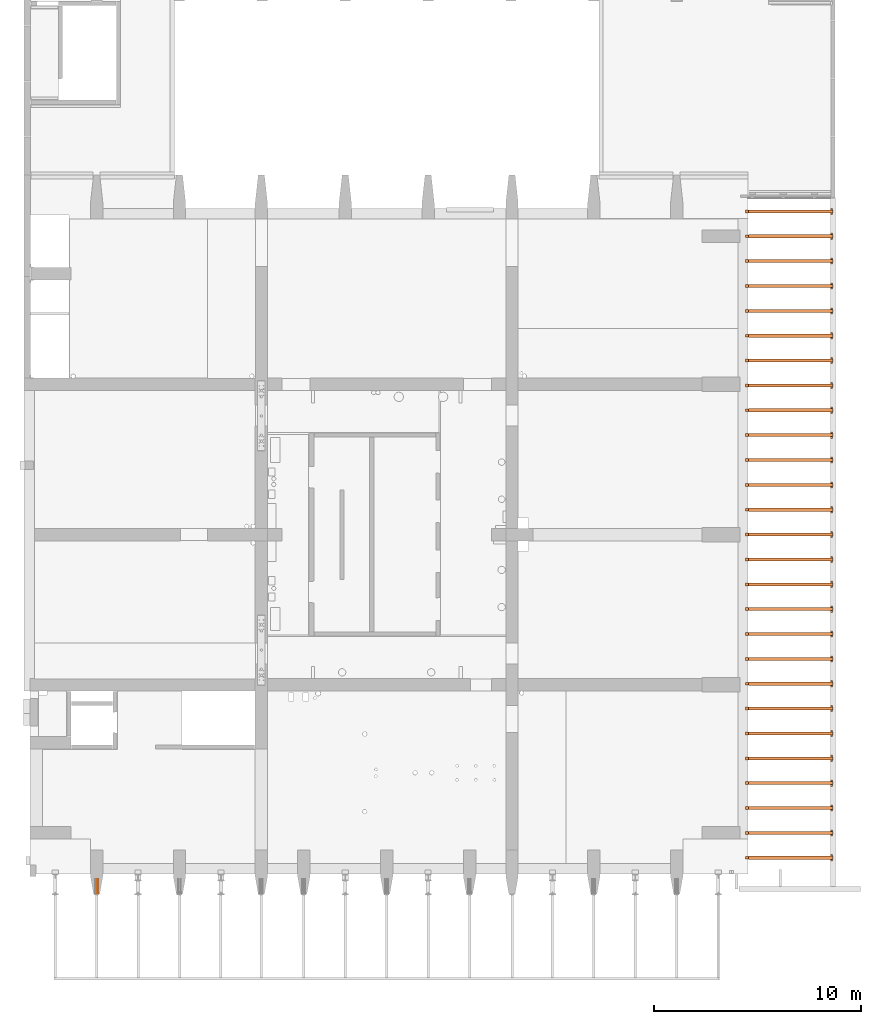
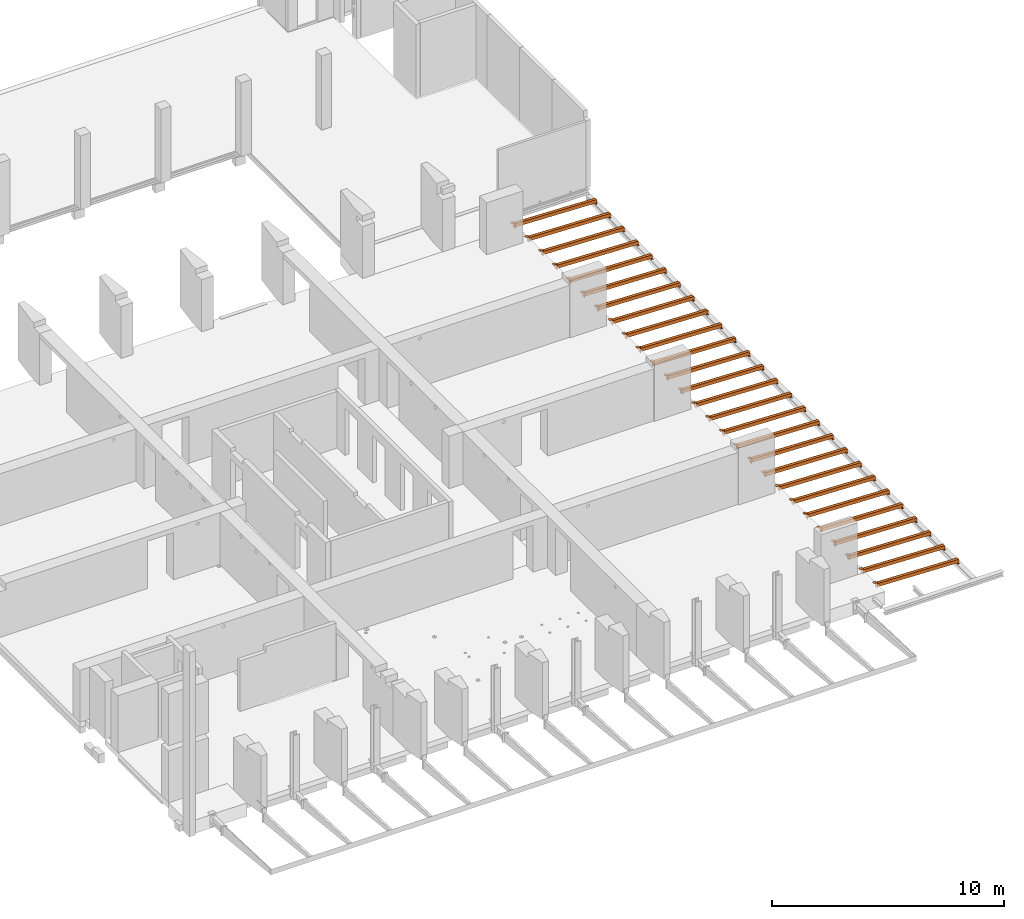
# One storey, part 25 of 27: 28 proxies.
"""IFC2X3 building model written with IfcOpenShell, lengths in millimetres."""

import ifcopenshell
import ifcopenshell.guid

model = None  # the IFC model being written
_history = None  # IfcOwnerHistory: only IFC2X3 demands one
_inside = {}  # id of a spatial element -> (the spatial element, [elements in it])
_under = {}  # id of a project, library or spatial element -> (it, [spatial elements below it])
_declared = {}  # id of a project -> (the project, [libraries it declares])
_typed = {}  # id of a type object -> (the type object, [elements of that type])
_made_of = {}  # id of a material, layer set ... -> (it, [elements and type objects made of it])


def new_model(schema):
    """Start an empty IFC model of exactly this schema.

    Asked for "IFC4X3", IfcOpenShell would pick the latest addendum, in which some entities
    have other attributes; the version numbers below select the first issue.
    IFC2X3 requires an IfcOwnerHistory on every rooted entity: one is made here for all.
    """
    global model, _history
    if schema == "IFC4X3":
        model = ifcopenshell.file(schema_version=(4, 3, 0, 0))
    else:
        model = ifcopenshell.file(schema=schema)
    _inside.clear()
    _under.clear()
    _declared.clear()
    _typed.clear()
    _made_of.clear()
    _history = None
    if model.schema == "IFC2X3":
        org = make("IfcOrganization", Name="unknown")
        user = make(
            "IfcPersonAndOrganization",
            ThePerson=make("IfcPerson", FamilyName="unknown"),
            TheOrganization=org,
        )
        app = make(
            "IfcApplication",
            ApplicationDeveloper=org,
            Version="unknown",
            ApplicationFullName="unknown",
            ApplicationIdentifier="unknown",
        )
        _history = make(
            "IfcOwnerHistory",
            OwningUser=user,
            OwningApplication=app,
            ChangeAction="ADDED",
            CreationDate=0,
        )
    return model


def make(cls, **values):
    """One entity of the class cls with the attributes given. An attribute that is None is left unset."""
    return model.create_entity(
        cls, **{name: value for name, value in values.items() if value is not None}
    )


def entity(cls, *values):
    """Any entity or typed value of the class cls, its attributes in the order of the schema. None: left unset."""
    e = model.create_entity(cls)
    for i, value in enumerate(values):
        if value is not None:
            e[i] = value
    return e


def rooted(cls, **values):
    """An entity with a GlobalId (a new one), such as an element, a storey or a relation."""
    return make(cls, GlobalId=ifcopenshell.guid.new(), OwnerHistory=_history, **values)


def si_unit(unit_type, name, prefix=None):
    """IfcSIUnit, for example si_unit("LENGTHUNIT", "METRE", prefix="MILLI")."""
    return make("IfcSIUnit", UnitType=unit_type, Prefix=prefix, Name=name)


def converted_unit(unit_type, name, factor, base, dimensions=None, offset=None):
    """IfcConversionBasedUnit, such as the inch: factor (a typed value) times the base unit."""
    return make(
        "IfcConversionBasedUnit"
        if offset is None
        else "IfcConversionBasedUnitWithOffset",
        ConversionOffset=offset,
        Dimensions=None
        if dimensions is None
        else entity("IfcDimensionalExponents", *dimensions),
        UnitType=unit_type,
        Name=name,
        ConversionFactor=make(
            "IfcMeasureWithUnit", ValueComponent=factor, UnitComponent=base
        ),
    )


def derived_unit(unit_type, elements):
    """IfcDerivedUnit: a product of units, each with its exponent."""
    return make(
        "IfcDerivedUnit",
        Elements=[
            make("IfcDerivedUnitElement", Unit=unit, Exponent=power)
            for unit, power in elements
        ],
        UnitType=unit_type,
    )


def assignment(units):
    """IfcUnitAssignment: the units of a project."""
    return None if units is None else make("IfcUnitAssignment", Units=units)


def point(xyz):
    """IfcCartesianPoint."""
    return None if xyz is None else make("IfcCartesianPoint", Coordinates=xyz)


def direction(xyz):
    """IfcDirection."""
    return None if xyz is None else make("IfcDirection", DirectionRatios=xyz)


def frame(location, z_axis=None, x_axis=None):
    """IfcAxis2Placement3D, a coordinate frame: its origin and axes. An axis left out is left unset."""
    return make(
        "IfcAxis2Placement3D",
        Location=point(location),
        Axis=direction(z_axis),
        RefDirection=direction(x_axis),
    )


def frame_2d(location, x_axis=None):
    """IfcAxis2Placement2D, a coordinate frame in the plane: its origin and x axis."""
    return make(
        "IfcAxis2Placement2D", Location=point(location), RefDirection=direction(x_axis)
    )


def origin():
    """The frame at (0, 0, 0) with its axes left unset."""
    return frame((0.0, 0.0, 0.0))


def origin_2d_with_axis():
    """The frame at (0, 0) in the plane with the x axis (1, 0) written out."""
    return frame_2d((0.0, 0.0), x_axis=(1.0, 0.0))


def place(relative_to, where):
    """IfcLocalPlacement: puts the frame where relative to a parent placement (None: the world)."""
    return make(
        "IfcLocalPlacement", PlacementRelTo=relative_to, RelativePlacement=where
    )


def context(
    kind, dimensions, precision=None, world=None, true_north=None, identifier=None
):
    """IfcGeometricRepresentationContext, for example the 3D "Model" context."""
    return make(
        "IfcGeometricRepresentationContext",
        ContextIdentifier=identifier,
        ContextType=kind,
        CoordinateSpaceDimension=dimensions,
        Precision=precision,
        WorldCoordinateSystem=world,
        TrueNorth=true_north,
    )


def subcontext(parent, identifier, kind, view, scale=None):
    """IfcGeometricRepresentationSubContext, for example "Body" below "Model"."""
    return make(
        "IfcGeometricRepresentationSubContext",
        ContextIdentifier=identifier,
        ContextType=kind,
        ParentContext=parent,
        TargetScale=scale,
        TargetView=view,
    )


def project(units=None, contexts=None):
    """IfcProject with its units and contexts."""
    return rooted(
        "IfcProject",
        Name="project",
        RepresentationContexts=contexts,
        UnitsInContext=assignment(units),
    )


def spatial(cls, under=None, at=None, **own):
    """A site, building, storey or space (cls), placed at a placement, below another one or the project."""
    s = rooted(cls, ObjectPlacement=at, **own)
    if under is not None:
        _under.setdefault(under.id(), (under, []))[1].append(s)
    return s


def polyline(points):
    """IfcPolyline through the points."""
    return make("IfcPolyline", Points=[point(p) for p in points])


def circle_curve(where, radius):
    """IfcCircle in the frame where."""
    return make("IfcCircle", Position=where, Radius=radius)


def parameter(value):
    """IfcParameterValue: where a trimmed curve begins or ends, as a parameter of its basis curve."""
    return model.create_entity("IfcParameterValue", value)


def trimmed(basis, trim1, trim2, sense, master):
    """IfcTrimmedCurve: the piece of a basis curve between two trims."""
    return make(
        "IfcTrimmedCurve",
        BasisCurve=basis,
        Trim1=trim1,
        Trim2=trim2,
        SenseAgreement=sense,
        MasterRepresentation=master,
    )


def segment(curve, same_sense, transition):
    """IfcCompositeCurveSegment."""
    return make(
        "IfcCompositeCurveSegment",
        Transition=transition,
        SameSense=same_sense,
        ParentCurve=curve,
    )


def composite_curve(segments, self_intersect=None):
    """IfcCompositeCurve: segments joined end to end."""
    return make("IfcCompositeCurve", Segments=segments, SelfIntersect=self_intersect)


def profile(cls, at=None, kind="AREA", **sizes):
    """A parametric profile (cls). Its sizes go by their IFC names, for example OverallWidth=200.0."""
    return make(cls, ProfileType=kind, Position=at, **sizes)


def rectangle(**sizes):
    """IfcRectangleProfileDef."""
    return profile("IfcRectangleProfileDef", **sizes)


def circle(**sizes):
    """IfcCircleProfileDef."""
    return profile("IfcCircleProfileDef", **sizes)


def outline(outer, holes=None, kind="AREA"):
    """IfcArbitraryClosedProfileDef: a profile drawn as a closed curve; with holes, ...WithVoids."""
    if holes is None:
        return make("IfcArbitraryClosedProfileDef", ProfileType=kind, OuterCurve=outer)
    return make(
        "IfcArbitraryProfileDefWithVoids",
        ProfileType=kind,
        OuterCurve=outer,
        InnerCurves=holes,
    )


def extrude(swept, where, along, depth):
    """IfcExtrudedAreaSolid: the profile swept, set in the frame where, extruded along a direction by depth."""
    return make(
        "IfcExtrudedAreaSolid",
        SweptArea=swept,
        Position=where,
        ExtrudedDirection=direction(along),
        Depth=depth,
    )


def faces_of(points, faces, orient=None, outer=None):
    """IfcFace entities. A face is a list of loops; a loop is a list of indices into points, from 0.

    orient and outer hold one flag for each loop. By default every Orientation is true, the
    first loop of a face is its IfcFaceOuterBound and the others are IfcFaceBound.
    """
    made = []
    for i, loops in enumerate(faces):
        bounds = []
        for j, loop in enumerate(loops):
            is_outer = j == 0 if outer is None else outer[i][j]
            bounds.append(
                make(
                    "IfcFaceOuterBound" if is_outer else "IfcFaceBound",
                    Bound=make("IfcPolyLoop", Polygon=[points[k] for k in loop]),
                    Orientation=True if orient is None else orient[i][j],
                )
            )
        made.append(make("IfcFace", Bounds=bounds))
    return made


def faceted_brep(points, faces, orient=None, outer=None, voids=None):
    """IfcFacetedBrep: a solid bounded by flat faces; with voids (closed shells), ...WithVoids."""
    shared = [point(p) for p in points]
    hull = make("IfcClosedShell", CfsFaces=faces_of(shared, faces, orient, outer))
    if voids is None:
        return make("IfcFacetedBrep", Outer=hull)
    return make(
        "IfcFacetedBrepWithVoids",
        Outer=hull,
        Voids=[
            make(cls, CfsFaces=faces_of(shared, fs, o, b)) for cls, fs, o, b in voids
        ],
    )


def shape(context_of_items, identifier, shape_type, items):
    """IfcShapeRepresentation: the items that make up one representation, for example the "Body"."""
    return make(
        "IfcShapeRepresentation",
        ContextOfItems=context_of_items,
        RepresentationIdentifier=identifier,
        RepresentationType=shape_type,
        Items=items,
    )


def source(mapping_origin, context_of_items, identifier, shape_type, items):
    """IfcRepresentationMap: a shape defined once, which mapped items show again and again."""
    return make(
        "IfcRepresentationMap",
        MappingOrigin=mapping_origin,
        MappedRepresentation=shape(context_of_items, identifier, shape_type, items),
    )


def transform(
    local_origin,
    x_axis=None,
    y_axis=None,
    z_axis=None,
    scale=None,
    scale2=None,
    scale3=None,
    uniform=True,
):
    """IfcCartesianTransformationOperator3D, or its non-uniform kind. x_axis, y_axis, z_axis: its Axis1, 2, 3."""
    if uniform:
        return make(
            "IfcCartesianTransformationOperator3D",
            Axis1=direction(x_axis),
            Axis2=direction(y_axis),
            LocalOrigin=point(local_origin),
            Scale=scale,
            Axis3=direction(z_axis),
        )
    return make(
        "IfcCartesianTransformationOperator3DnonUniform",
        Axis1=direction(x_axis),
        Axis2=direction(y_axis),
        LocalOrigin=point(local_origin),
        Scale=scale,
        Axis3=direction(z_axis),
        Scale2=scale2,
        Scale3=scale3,
    )


def mapped(mapping_source, mapping_target):
    """IfcMappedItem: shows the shape of a source again, moved by a transform."""
    return make(
        "IfcMappedItem", MappingSource=mapping_source, MappingTarget=mapping_target
    )


def material(Name=None, Category=None):
    """IfcMaterial."""
    return make("IfcMaterial", Name=Name, Category=Category)


def made_of(thing, what):
    """Note that an element or type object is made of a material, layer set ...; save() writes the relation."""
    if what is not None:
        _made_of.setdefault(what.id(), (what, []))[1].append(thing)
    return thing


def type_object(cls, material=None, **own):
    """A type object (cls), such as IfcWallType, which elements share."""
    return made_of(rooted(cls, **own), material)


def type_shapes(of_type, sources):
    """Give a type object the sources (RepresentationMaps) that its elements show as mapped items."""
    of_type.RepresentationMaps = sources


def element(
    cls,
    number,
    at=None,
    inside=None,
    cuts=None,
    type_object=None,
    material=None,
    context=None,
    identifier="Body",
    shape_type=None,
    held_by="IfcProductDefinitionShape",
    body=None,
    shapes=None,
    **own,
):
    """One element of the class cls, such as IfcWall. Its Tag is "e" and its number.

    at: its placement. inside: the storey or other place that contains it. cuts: it is an
    opening in that element (IfcRelVoidsElement). A single representation is given by context,
    identifier, shape_type and body (its items); several are given by shapes. held_by: the class
    of the entity that holds the representations. save() writes the other relations.
    """
    e = rooted(cls, Tag="e%d" % number, ObjectPlacement=at, **own)
    if body is not None:
        shapes = [shape(context, identifier, shape_type, body)]
    if shapes is not None:
        e.Representation = make(held_by, Representations=shapes)
    if inside is not None:
        _inside.setdefault(inside.id(), (inside, []))[1].append(e)
    if cuts is not None:
        rooted(
            "IfcRelVoidsElement", RelatingBuildingElement=cuts, RelatedOpeningElement=e
        )
    if type_object is not None:
        _typed.setdefault(type_object.id(), (type_object, []))[1].append(e)
    return made_of(e, material)


def aggregate(whole, parts):
    """IfcRelAggregates: a whole, such as a stair, and the parts it consists of."""
    return rooted("IfcRelAggregates", RelatingObject=whole, RelatedObjects=parts)


def save(model, path):
    """Write the relations noted so far, then the file.

    IfcRelAggregates (storeys below a building ...), IfcRelContainedInSpatialStructure (elements
    in a storey), IfcRelDefinesByType, IfcRelAssociatesMaterial and IfcRelDeclares: one each for
    every whole, place, type object, material and project.
    """
    for whole, parts in _under.values():
        aggregate(whole, parts)
    for where, things in _inside.values():
        rooted(
            "IfcRelContainedInSpatialStructure",
            RelatedElements=things,
            RelatingStructure=where,
        )
    for kind, things in _typed.values():
        rooted("IfcRelDefinesByType", RelatedObjects=things, RelatingType=kind)
    for what, things in _made_of.values():
        rooted("IfcRelAssociatesMaterial", RelatedObjects=things, RelatingMaterial=what)
    for by, libraries in _declared.values():
        rooted("IfcRelDeclares", RelatingContext=by, RelatedDefinitions=libraries)
    model.write(path)


model = new_model("IFC2X3")

# Units and contexts
model_context = context("Model", 3, precision=0.01, world=origin(), true_north=direction((6.12303176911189e-17, 1.0)))
body_context = subcontext(model_context, "Body", "Model", "MODEL_VIEW")
ifc_project = project(units=[si_unit("LENGTHUNIT", "METRE", prefix="MILLI"), si_unit("AREAUNIT", "SQUARE_METRE"), si_unit("VOLUMEUNIT", "CUBIC_METRE"), converted_unit("PLANEANGLEUNIT", "DEGREE", entity("IfcRatioMeasure", 0.0174532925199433), si_unit("PLANEANGLEUNIT", "RADIAN"), dimensions=[0, 0, 0, 0, 0, 0, 0]), si_unit("MASSUNIT", "GRAM", prefix="KILO"), derived_unit("MASSDENSITYUNIT", [(si_unit("MASSUNIT", "GRAM", prefix="KILO"), 1), (si_unit("LENGTHUNIT", "METRE"), -3)]), si_unit("TIMEUNIT", "SECOND"), si_unit("FREQUENCYUNIT", "HERTZ"), si_unit("THERMODYNAMICTEMPERATUREUNIT", "DEGREE_CELSIUS"), derived_unit("THERMALTRANSMITTANCEUNIT", [(si_unit("MASSUNIT", "GRAM", prefix="KILO"), 1), (si_unit("THERMODYNAMICTEMPERATUREUNIT", "KELVIN"), -1), (si_unit("TIMEUNIT", "SECOND"), -3)]), derived_unit("VOLUMETRICFLOWRATEUNIT", [(si_unit("LENGTHUNIT", "METRE"), 3), (si_unit("TIMEUNIT", "SECOND"), -1)]), si_unit("ELECTRICCURRENTUNIT", "AMPERE"), si_unit("ELECTRICVOLTAGEUNIT", "VOLT"), si_unit("POWERUNIT", "WATT"), si_unit("FORCEUNIT", "NEWTON", prefix="KILO"), si_unit("ILLUMINANCEUNIT", "LUX"), si_unit("LUMINOUSFLUXUNIT", "LUMEN"), si_unit("LUMINOUSINTENSITYUNIT", "CANDELA"), derived_unit("USERDEFINED", [(si_unit("MASSUNIT", "GRAM", prefix="KILO"), -1), (si_unit("LENGTHUNIT", "METRE"), -2), (si_unit("TIMEUNIT", "SECOND"), 3), (si_unit("LUMINOUSFLUXUNIT", "LUMEN"), 1)]), derived_unit("LINEARVELOCITYUNIT", [(si_unit("LENGTHUNIT", "METRE"), 1), (si_unit("TIMEUNIT", "SECOND"), -1)]), si_unit("PRESSUREUNIT", "PASCAL"), derived_unit("USERDEFINED", [(si_unit("LENGTHUNIT", "METRE"), -2), (si_unit("MASSUNIT", "GRAM", prefix="KILO"), 1), (si_unit("TIMEUNIT", "SECOND"), -2)])], contexts=[model_context])

# Site, building, storey
site_placement = place(None, origin())
site = spatial("IfcSite", under=ifc_project, at=site_placement, Name="Default", CompositionType="ELEMENT")
building_placement = place(site_placement, origin())
building = spatial("IfcBuilding", under=site, at=building_placement, Name="niet gebruiken", CompositionType="ELEMENT")
storey_placement = place(building_placement, frame((0.0, 0.0, 6000.0)))
storey = spatial("IfcBuildingStorey", under=building, at=storey_placement, Name="01 eerste verdieping", CompositionType="ELEMENT", Elevation=6000.0)

# Proxies
building_element_proxy_type_1 = type_object("IfcBuildingElementProxyType", Name="Ø20/M24x705", PredefinedType="NOTDEFINED")
shared_shape_1 = source(origin(), body_context, "Body", "SolidModel", [
    extrude(circle(Radius=10.0, at=frame_2d((0.0, -1.61554457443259e-14), x_axis=(1.0, 0.0))), frame((34.9769027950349, 0.0, -705.0)), (0.0, 0.0, 1.0), 615.0),
    extrude(circle(Radius=10.0, at=frame_2d((0.0, -1.61554457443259e-14), x_axis=(1.0, 0.0))), frame((34.9769027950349, 0.0, -705.0)), (0.0, 0.0, 1.0), 615.0),
    faceted_brep([(29.3200485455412, 13.6568542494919, 0.0), (32.1484756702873, 14.8284271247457, 0.0), (34.9769027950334, 16.0, 0.0), (34.9769027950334, 16.0, -38.0), (32.1484756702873, 14.8284271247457, -38.0), (29.3200485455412, 13.6568542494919, -38.0), (26.4916214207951, 12.4852813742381, -38.0), (23.663194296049, 11.3137084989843, -38.0), (23.663194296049, 11.3137084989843, 0.0), (26.4916214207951, 12.4852813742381, 0.0), (49.805329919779, 2.82842712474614, 0.0), (50.9769027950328, 0.0, 0.0), (50.9769027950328, 0.0, -38.0), (50.0199937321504, 2.31018283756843, -38.0), (49.7680552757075, 2.91841607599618, -38.0), (48.6337570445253, 5.65685424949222, -38.0), (48.5592077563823, 5.83683215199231, -38.0), (47.4621841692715, 8.48528137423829, -38.0), (46.2906112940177, 11.3137084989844, -38.0), (46.2906112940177, 11.3137084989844, 0.0), (47.4621841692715, 8.48528137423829, 0.0), (48.6337570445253, 5.65685424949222, 0.0), (21.3200485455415, 5.65685424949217, 0.0), (22.4916214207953, 8.48528137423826, 0.0), (22.4916214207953, 8.48528137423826, -38.0), (22.2769576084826, 7.96703708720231, -38.0), (21.3200485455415, 5.65685424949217, -38.0), (20.8907209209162, 4.62036567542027, -38.0), (20.1484756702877, 2.82842712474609, -38.0), (18.976902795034, 0.0, -38.0), (18.976902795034, 0.0, 0.0), (20.1484756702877, 2.82842712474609, 0.0), (40.6337570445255, 13.6568542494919, 0.0), (43.4621841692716, 12.4852813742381, 0.0), (43.4621841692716, 12.4852813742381, -38.0), (40.6337570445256, 13.6568542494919, -38.0), (37.8053299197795, 14.8284271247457, -38.0), (37.8053299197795, 14.8284271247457, 0.0), (49.063084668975, -4.62036567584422, 0.0), (47.6768479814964, -7.96703708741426, 0.0), (46.2906112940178, -11.3137084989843, 0.0), (46.2906112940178, -11.3137084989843, -38.0), (47.4621841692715, -8.48528137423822, -38.0), (48.6337570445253, -5.65685424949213, -38.0), (49.8053299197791, -2.82842712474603, -38.0), (29.3200485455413, -13.6568542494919, 0.0), (26.4916214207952, -12.4852813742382, 0.0), (23.6631942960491, -11.3137084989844, 0.0), (23.6631942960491, -11.3137084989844, -38.0), (26.4916214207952, -12.4852813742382, -38.0), (29.3200485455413, -13.6568542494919, -38.0), (32.1484756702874, -14.8284271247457, -38.0), (34.9769027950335, -16.0, -38.0), (34.9769027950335, -16.0, 0.0), (32.1484756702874, -14.8284271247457, 0.0), (37.8053299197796, -14.8284271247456, -38.0), (40.6337570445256, -13.6568542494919, -38.0), (43.4621841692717, -12.4852813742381, -38.0), (43.4621841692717, -12.4852813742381, 0.0), (40.6337570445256, -13.6568542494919, 0.0), (37.8053299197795, -14.8284271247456, 0.0), (22.4916214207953, -8.48528137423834, 0.0), (21.3200485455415, -5.65685424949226, 0.0), (20.1484756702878, -2.82842712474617, 0.0), (19.9338118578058, -2.31018283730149, -38.0), (20.1857498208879, -2.91841488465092, -38.0), (21.3200485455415, -5.65685424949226, -38.0), (22.4916214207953, -8.48528137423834, -38.0), (25.7845146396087, 9.19238815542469, -52.0), (24.8628969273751, 6.96740617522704, -52.0), (23.9412792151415, 4.7424241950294, -52.0), (22.9590910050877, 2.3712120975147, -52.0), (21.976902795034, 0.0, -52.0), (44.1692909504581, 9.19238815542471, -52.0), (47.9769027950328, 0.0, -52.0), (46.994714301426, 2.37121278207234, -52.0), (46.0730968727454, 4.59619407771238, -52.0), (45.1211939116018, 6.89429111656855, -52.0), (34.9769027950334, 13.0, -52.0), (32.6788057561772, 12.0480970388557, -52.0), (30.380708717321, 11.096194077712, -52.0), (28.0826116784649, 10.1442911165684, -52.0), (37.2749998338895, 12.0480970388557, -52.0), (41.8711939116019, 10.1442911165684, -52.0), (39.5730968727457, 11.0961940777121, -52.0), (44.1692909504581, -9.19238815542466, -52.0), (45.0909086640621, -6.96740617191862, -52.0), (45.3722781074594, -6.28812024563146, -52.0), (46.0125263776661, -4.74242418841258, -52.0), (46.5752652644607, -3.38385233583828, -52.0), (46.9947145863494, -2.37121209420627, -52.0), (28.0826116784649, -10.1442911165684, -52.0), (30.3807087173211, -11.0961940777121, -52.0), (32.6788057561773, -12.0480970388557, -52.0), (34.9769027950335, -13.0, -52.0), (25.7845146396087, -9.19238815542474, -52.0), (37.2749998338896, -12.0480970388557, -52.0), (39.5730968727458, -11.096194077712, -52.0), (41.871193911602, -10.1442911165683, -52.0), (22.9288057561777, -2.29809703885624, -52.0), (23.8807087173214, -4.59619407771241, -52.0), (24.8326116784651, -6.89429111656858, -52.0), (32.6788057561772, 12.0480970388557, -90.0), (30.380708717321, 11.096194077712, -90.0), (28.0826116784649, 10.1442911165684, -90.0), (25.7845146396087, 9.19238815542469, -90.0), (34.9769027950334, 13.0, -90.0), (47.9769027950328, 0.0, -90.0), (47.2760840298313, 1.691926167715, -90.0), (46.0730968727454, 4.59619407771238, -90.0), (45.1211939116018, 6.89429111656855, -90.0), (44.1692909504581, 9.19238815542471, -90.0), (23.3785403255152, 3.38385233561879, -90.0), (21.976902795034, 0.0, -90.0), (24.5815274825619, 6.28812024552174, -90.0), (41.8711939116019, 10.1442911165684, -90.0), (39.5730968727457, 11.0961940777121, -90.0), (37.2749998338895, 12.0480970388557, -90.0), (46.0730968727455, -4.5961940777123, -90.0), (47.0249998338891, -2.29809703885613, -90.0), (44.1692909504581, -9.19238815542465, -90.0), (45.1211939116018, -6.89429111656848, -90.0), (25.7845146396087, -9.19238815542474, -90.0), (28.0826116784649, -10.1442911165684, -90.0), (30.3807087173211, -11.0961940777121, -90.0), (32.6788057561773, -12.0480970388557, -90.0), (34.9769027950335, -13.0, -90.0), (37.2749998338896, -12.0480970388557, -90.0), (39.5730968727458, -11.096194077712, -90.0), (41.871193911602, -10.1442911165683, -90.0), (22.6777215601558, -1.6919261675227, -90.0), (23.8807087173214, -4.59619407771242, -90.0), (24.8326116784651, -6.89429111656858, -90.0), (34.9769027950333, 0.0, -90.0), (34.9769027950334, 0.0, -38.0), (47.9769027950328, 0.0, -38.0), (47.2760840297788, 1.69192616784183, -38.0), (46.0730968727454, 4.59619407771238, -38.0), (45.1211939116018, 6.89429111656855, -38.0), (44.1692909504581, 9.19238815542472, -38.0), (41.8711939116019, 10.1442911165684, -38.0), (39.5730968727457, 11.0961940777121, -38.0), (37.2749998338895, 12.0480970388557, -38.0), (34.9769027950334, 13.0, -38.0), (32.6788057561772, 12.0480970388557, -38.0), (30.380708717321, 11.096194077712, -38.0), (28.0826116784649, 10.1442911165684, -38.0), (25.7845146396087, 9.19238815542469, -38.0), (24.5815274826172, 6.28812024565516, -38.0), (23.3785403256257, 3.38385233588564, -38.0), (21.976902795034, 0.0, -38.0), (22.6777215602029, -1.69192616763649, -38.0), (47.0249998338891, -2.29809703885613, -38.0), (46.0730968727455, -4.59619407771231, -38.0), (45.1211939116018, -6.89429111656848, -38.0), (44.1692909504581, -9.19238815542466, -38.0), (41.871193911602, -10.1442911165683, -38.0), (39.5730968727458, -11.096194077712, -38.0), (37.2749998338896, -12.0480970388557, -38.0), (34.9769027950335, -13.0, -38.0), (23.8807087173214, -4.59619407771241, -38.0), (24.8326116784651, -6.89429111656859, -38.0), (25.7845146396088, -9.19238815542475, -38.0), (28.0826116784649, -10.1442911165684, -38.0), (30.3807087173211, -11.0961940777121, -38.0), (32.6788057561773, -12.0480970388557, -38.0), (32.6788057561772, 12.0480970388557, 0.0), (30.380708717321, 11.096194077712, 0.0), (28.0826116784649, 10.1442911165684, 0.0), (25.7845146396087, 9.19238815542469, 0.0), (34.9769027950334, 13.0, 0.0), (47.9769027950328, 0.0, 0.0), (47.0249998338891, 2.29809703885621, 0.0), (46.0730968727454, 4.59619407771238, 0.0), (45.1211939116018, 6.89429111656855, 0.0), (44.1692909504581, 9.19238815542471, 0.0), (24.832611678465, 6.89429111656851, 0.0), (23.8807087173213, 4.59619407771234, 0.0), (22.9288057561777, 2.29809703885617, 0.0), (21.976902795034, 0.0, 0.0), (37.2749998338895, 12.0480970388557, 0.0), (41.8711939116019, 10.1442911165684, 0.0), (39.5730968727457, 11.0961940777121, 0.0), (44.1692909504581, -9.19238815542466, 0.0), (45.3722781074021, -6.28812024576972, 0.0), (46.5752652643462, -3.38385233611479, 0.0), (32.6788057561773, -12.0480970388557, 0.0), (34.9769027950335, -13.0, 0.0), (25.7845146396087, -9.19238815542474, 0.0), (28.0826116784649, -10.1442911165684, 0.0), (30.3807087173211, -11.0961940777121, 0.0), (37.2749998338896, -12.0480970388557, 0.0), (39.5730968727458, -11.096194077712, 0.0), (41.871193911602, -10.1442911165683, 0.0), (22.9288057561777, -2.29809703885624, 0.0), (23.8807087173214, -4.59619407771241, 0.0), (24.8326116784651, -6.89429111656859, 0.0)], [[[0, 1, 2, 3, 4, 5, 6, 7, 8, 9]], [[10, 11, 12, 13, 14, 15, 16, 17, 18, 19, 20, 21]], [[22, 23, 8, 7, 24, 25, 26, 27, 28, 29, 30, 31]], [[32, 33, 19, 18, 34, 35, 36, 3, 2, 37]], [[38, 39, 40, 41, 42, 43, 44, 12, 11]], [[45, 46, 47, 48, 49, 50, 51, 52, 53, 54]], [[53, 52, 55, 56, 57, 41, 40, 58, 59, 60]], [[48, 47, 61, 62, 63, 30, 29, 64, 65, 66, 67]], [[7, 68, 69, 70, 71, 72, 29, 28, 27, 26, 25, 24]], [[73, 18, 17, 16, 15, 14, 13, 12, 74, 75, 76, 77]], [[4, 3, 78, 79, 80, 81, 68, 7, 6, 5]], [[82, 78, 3, 36, 35, 34, 18, 73, 83, 84]], [[41, 85, 86, 87, 88, 89, 90, 74, 12, 44, 43, 42]], [[91, 92, 93, 94, 52, 51, 50, 49, 48, 95]], [[55, 52, 94, 96, 97, 98, 85, 41, 57, 56]], [[99, 100, 101, 95, 48, 67, 66, 65, 64, 29, 72]], [[102, 103, 104, 105, 68, 81, 80, 79, 78, 106]], [[75, 74, 107, 108, 109, 110, 111, 73, 77, 76]], [[112, 113, 72, 71, 70, 69, 68, 105, 114]], [[84, 83, 73, 111, 115, 116, 117, 106, 78, 82]], [[118, 119, 107, 74, 90, 89, 88, 87, 86, 85, 120, 121]], [[92, 91, 95, 122, 123, 124, 125, 126, 94, 93]], [[94, 126, 127, 128, 129, 120, 85, 98, 97, 96]], [[122, 95, 101, 100, 99, 72, 113, 130, 131, 132]], [[133, 111, 110]], [[133, 110, 109]], [[133, 109, 108]], [[133, 108, 107]], [[133, 107, 119]], [[133, 115, 111]], [[133, 116, 115]], [[133, 117, 116]], [[133, 106, 117]], [[133, 102, 106]], [[133, 103, 102]], [[133, 104, 103]], [[133, 105, 104]], [[133, 114, 105]], [[133, 112, 114]], [[133, 113, 112]], [[133, 119, 118]], [[133, 118, 121]], [[133, 121, 120]], [[133, 120, 129]], [[133, 129, 128]], [[133, 128, 127]], [[133, 127, 126]], [[133, 126, 125]], [[133, 130, 113]], [[133, 131, 130]], [[133, 132, 131]], [[133, 122, 132]], [[133, 125, 124]], [[133, 124, 123]], [[133, 123, 122]], [[134, 135, 136]], [[134, 136, 137]], [[134, 137, 138]], [[134, 138, 139]], [[134, 139, 140]], [[134, 140, 141]], [[134, 141, 142]], [[134, 142, 143]], [[134, 143, 144]], [[134, 144, 145]], [[134, 145, 146]], [[134, 146, 147]], [[134, 147, 148]], [[134, 148, 149]], [[134, 149, 150]], [[134, 150, 151]], [[134, 152, 135]], [[134, 153, 152]], [[134, 154, 153]], [[134, 155, 154]], [[134, 156, 155]], [[134, 157, 156]], [[134, 158, 157]], [[134, 159, 158]], [[134, 151, 160]], [[134, 160, 161]], [[134, 161, 162]], [[134, 162, 163]], [[134, 163, 164]], [[134, 164, 165]], [[134, 165, 159]], [[166, 167, 168, 169, 147, 146, 145, 144, 143, 170]], [[136, 135, 171, 172, 173, 174, 175, 139, 138, 137]], [[148, 147, 169, 176, 177, 178, 179, 150, 149]], [[180, 170, 143, 142, 141, 140, 139, 175, 181, 182]], [[153, 154, 155, 183, 184, 185, 171, 135, 152]], [[186, 187, 159, 165, 164, 163, 162, 188, 189, 190]], [[158, 159, 187, 191, 192, 193, 183, 155, 156, 157]], [[161, 160, 151, 150, 179, 194, 195, 196, 188, 162]], [[171, 11, 10]], [[171, 10, 21]], [[171, 21, 20]], [[171, 20, 19]], [[19, 172, 171]], [[171, 38, 11]], [[171, 39, 38]], [[171, 40, 39]], [[40, 171, 185]], [[40, 185, 184]], [[40, 184, 183]], [[183, 58, 40]], [[183, 59, 58]], [[183, 60, 59]], [[183, 53, 60]], [[53, 183, 193]], [[53, 193, 192]], [[53, 192, 191]], [[53, 191, 187]], [[53, 187, 186]], [[53, 186, 190]], [[53, 190, 189]], [[53, 189, 188]], [[188, 54, 53]], [[188, 45, 54]], [[188, 46, 45]], [[188, 47, 46]], [[47, 188, 196]], [[47, 196, 195]], [[47, 195, 194]], [[47, 194, 179]], [[179, 61, 47]], [[179, 62, 61]], [[179, 63, 62]], [[179, 30, 63]], [[179, 31, 30]], [[179, 22, 31]], [[179, 23, 22]], [[179, 8, 23]], [[8, 179, 178]], [[8, 178, 177]], [[8, 177, 176]], [[8, 176, 169]], [[169, 9, 8]], [[169, 0, 9]], [[169, 1, 0]], [[169, 2, 1]], [[2, 169, 168]], [[2, 168, 167]], [[2, 167, 166]], [[2, 166, 170]], [[2, 170, 180]], [[2, 180, 182]], [[2, 182, 181]], [[2, 181, 175]], [[175, 19, 33]], [[19, 175, 174]], [[175, 33, 32]], [[175, 32, 37]], [[175, 37, 2]], [[19, 174, 173]], [[19, 173, 172]]]),
])
type_shapes(building_element_proxy_type_1, [shared_shape_1])
proxy_placement = place(storey_placement, frame((127775.023097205, 150.0, 95.0), z_axis=(0.0, -1.0, 0.0), x_axis=(1.0, 0.0, 0.0)))
element("IfcBuildingElementProxy", 1, at=proxy_placement, inside=storey, type_object=building_element_proxy_type_1, Name="GM_Stekanker_DEMU_4010 GV:Ø20/M24x705", ObjectType="Ø20/M24x705", context=body_context, shape_type="MappedRepresentation", body=[
    mapped(shared_shape_1, transform((0.0, 0.0, 0.0), scale=1.0)),
])
ifc_material = material(Name="Default")
building_element_proxy_type_2 = type_object("IfcBuildingElementProxyType", Name="met oplegging", PredefinedType="NOTDEFINED", material=ifc_material)
shared_shape_2 = source(origin(), body_context, "Body", "SweptSolid", [
    extrude(outline(polyline([(-100.0, -150.0), (100.0, -150.0), (100.0, 150.0), (-100.0, 150.0), (-100.0, -150.0)]), holes=[composite_curve([segment(trimmed(circle_curve(frame_2d((-60.0, 120.0), x_axis=(1.0, 0.0)), 9.0), [parameter(4.07110999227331e-13)], [parameter(180.0)], True, "PARAMETER"), False, "CONTINUOUS"), segment(trimmed(circle_curve(frame_2d((-60.0, 120.0), x_axis=(1.0, 0.0)), 9.0), [parameter(180.0)], [parameter(360.0)], True, "PARAMETER"), False, "CONTINUOUS")], self_intersect=False), composite_curve([segment(trimmed(circle_curve(frame_2d((60.0, 120.0), x_axis=(1.0, 0.0)), 9.0), [parameter(4.07110999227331e-13)], [parameter(180.0)], True, "PARAMETER"), False, "CONTINUOUS"), segment(trimmed(circle_curve(frame_2d((60.0, 120.0), x_axis=(1.0, 0.0)), 9.0), [parameter(180.0)], [parameter(360.0)], True, "PARAMETER"), False, "CONTINUOUS")], self_intersect=False)]), frame((0.0, -35.0, -205.0), z_axis=(0.0, 1.0, 0.0), x_axis=(1.0, 0.0, 0.0)), (0.0, 0.0, 1.0), 9.99999999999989),
    extrude(rectangle(XDim=140.0, YDim=150.0, at=origin_2d_with_axis()), frame((0.0, -110.0, -65.0), z_axis=(0.0, 0.0, 1.0), x_axis=(-1.0, 0.0, 0.0)), (0.0, 0.0, 1.0), 9.99999999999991),
    extrude(outline(polyline([(-190.342705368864, -2417.82488748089), (-12.7345112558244, -2417.82488748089), (125.733497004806, 1547.38006865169), (125.733497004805, 1641.09459379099), (-48.3897773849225, 1647.1751125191), (-190.342705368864, -2417.82488748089)])), frame((-75.0, 2392.82488748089, -301.20481355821), z_axis=(1.0, 0.0, 0.0), x_axis=(0.0, 0.0, -1.0)), (0.0, 0.0, 1.0), 8.0),
    extrude(outline(polyline([(-190.342705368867, -2417.82488748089), (-12.7345112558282, -2417.82488748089), (125.733497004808, 1547.38006865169), (125.733497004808, 1641.09459379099), (-48.3897773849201, 1647.17511251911), (-190.342705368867, -2417.82488748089)])), frame((67.0, 2392.82488748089, -301.20481355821), z_axis=(1.0, 0.0, 0.0), x_axis=(0.0, 0.0, -1.0)), (0.0, 0.0, 1.0), 8.0),
    extrude(rectangle(XDim=300.0, YDim=100.000000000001, at=frame_2d((0.0, 2.73558953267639e-13), x_axis=(1.0, 0.0))), frame((0.0, 3980.0, -444.0), z_axis=(0.0, 0.0, 1.0), x_axis=(-1.0, 0.0, 0.0)), (0.0, 0.0, 1.0), 15.0),
    extrude(outline(polyline([(-4.0, -2032.09762262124), (4.0, -2032.09762262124), (4.0, 2032.23730569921), (-4.0, 2031.95793954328), (-4.0, -2032.09762262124)])), frame((-67.0, 2005.85972365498, -275.838589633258), z_axis=(1.0, 0.0, 0.0), x_axis=(0.0, 0.0348994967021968, 0.999390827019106)), (0.0, 0.0, 1.0), 134.0),
    extrude(outline(polyline([(-74.9703711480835, -2032.25570352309), (-66.9654947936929, -2032.25570352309), (74.9654962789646, 2032.11610553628), (66.9703696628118, 2032.3953015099), (-74.9703711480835, -2032.25570352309)])), frame((-67.0, 2007.25570352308, -195.838574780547), z_axis=(1.0, 0.0, 0.0), x_axis=(0.0, 0.0, -1.0)), (0.0, 0.0, 1.0), 134.0),
])
type_shapes(building_element_proxy_type_2, [shared_shape_2])
for number, where, z_axis, x_axis in (
    (2, (159250.0, 4299.99964812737, 0.0), (0.0, 0.0, 1.0), (0.0, -1.0, 0.0)),
    (3, (159250.0, 3099.99964812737, 0.0), (0.0, 0.0, 1.0), (0.0, -1.0, 0.0)),
    (4, (159250.0, 5499.99964812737, 0.0), (0.0, 0.0, 1.0), (0.0, -1.0, 0.0)),
    (5, (159250.0, 6699.99964812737, 0.0), (0.0, 0.0, 1.0), (0.0, -1.0, 0.0)),
    (6, (159250.0, 7899.99964812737, 0.0), (0.0, 0.0, 1.0), (0.0, -1.0, 0.0)),
    (7, (159250.0, 9099.99964812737, 0.0), (0.0, 0.0, 1.0), (0.0, -1.0, 0.0)),
    (8, (159250.0, 10299.9996481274, 0.0), (0.0, 0.0, 1.0), (0.0, -1.0, 0.0)),
    (9, (159250.0, 11499.9996481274, 0.0), (0.0, 0.0, 1.0), (0.0, -1.0, 0.0)),
    (10, (159250.0, 12699.9996481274, 0.0), (0.0, 0.0, 1.0), (0.0, -1.0, 0.0)),
    (11, (159250.0, 13899.9996481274, 0.0), (0.0, 0.0, 1.0), (0.0, -1.0, 0.0)),
    (12, (159250.0, 15099.9996481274, 0.0), (0.0, 0.0, 1.0), (0.0, -1.0, 0.0)),
    (13, (159250.0, 16299.9996481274, 0.0), (0.0, 0.0, 1.0), (0.0, -1.0, 0.0)),
    (14, (159250.0, 17499.9996481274, 0.0), (0.0, 0.0, 1.0), (0.0, -1.0, 0.0)),
    (15, (159250.0, 18699.9996481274, 0.0), (0.0, 0.0, 1.0), (0.0, -1.0, 0.0)),
    (16, (159250.0, 19899.9996481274, 0.0), (0.0, 0.0, 1.0), (0.0, -1.0, 0.0)),
    (17, (159250.0, 21099.9996481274, 0.0), (0.0, 0.0, 1.0), (0.0, -1.0, 0.0)),
    (18, (159250.0, 22299.9996481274, 0.0), (0.0, 0.0, 1.0), (0.0, -1.0, 0.0)),
    (19, (159250.0, 23499.9996481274, 0.0), (0.0, 0.0, 1.0), (0.0, -1.0, 0.0)),
    (20, (159250.0, 24699.9996481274, 0.0), (0.0, 0.0, 1.0), (0.0, -1.0, 0.0)),
    (21, (159250.0, 25899.9996481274, 0.0), (0.0, 0.0, 1.0), (0.0, -1.0, 0.0)),
    (22, (159250.0, 27099.9996481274, 0.0), (0.0, 0.0, 1.0), (0.0, -1.0, 0.0)),
    (23, (159250.0, 28299.9996481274, 0.0), (0.0, 0.0, 1.0), (0.0, -1.0, 0.0)),
    (24, (159250.0, 29499.9996481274, 0.0), (0.0, 0.0, 1.0), (0.0, -1.0, 0.0)),
    (25, (159250.0, 30699.9996481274, 0.0), (0.0, 0.0, 1.0), (0.0, -1.0, 0.0)),
    (26, (159250.0, 31899.9996481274, 0.0), (0.0, 0.0, 1.0), (0.0, -1.0, 0.0)),
    (27, (159250.0, 33099.9996481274, 0.0), (0.0, 0.0, 1.0), (0.0, -1.0, 0.0)),
    (28, (159250.0, 1899.99964812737, 0.0), (0.0, 0.0, 1.0), (0.0, -1.0, 0.0)),
):
    element("IfcBuildingElementProxy", number, at=place(storey_placement, frame(where, z_axis=z_axis, x_axis=x_axis)), inside=storey, type_object=building_element_proxy_type_2, material=ifc_material, Name="NLRS_28.11_SF_stalen ligger samengesteld 1e r_gen:met oplegging", ObjectType="met oplegging", context=body_context, shape_type="MappedRepresentation", body=[
        mapped(shared_shape_2, transform((0.0, 0.0, 0.0), scale=1.0)),
    ])

save(model, "model.ifc")
